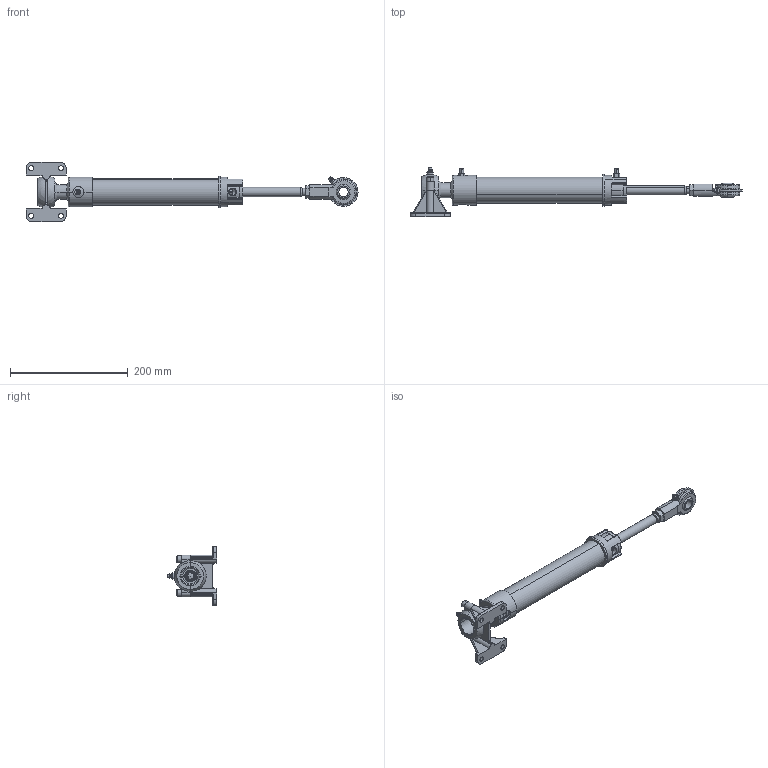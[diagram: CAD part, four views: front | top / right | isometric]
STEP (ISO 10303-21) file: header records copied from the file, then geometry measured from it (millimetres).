
FILE_DESCRIPTION (( 'STEP AP214' ), '1' );
FILE_NAME ('7040-U7.5.STEP', '2019-03-20T17:22:41', ( '' ), ( '' ), 'SwSTEP 2.0', 'SolidWorks 2017', '' );
FILE_SCHEMA (( 'AUTOMOTIVE_DESIGN' ));
Length unit declared in the file: inch
Products named in the file (1): 7040-U7.5
Bounding box: 563.87 x 83.84 x 100.33 mm (x, y, z)
Surface area: 119073.5 mm2 (no closed solid volume)
Topology: 0 solids, 18 shells, 425 faces, 1232 edges, 789 vertices
Faces by surface type: cylinder 153, plane 144, torus 64, cone 45, sphere 13, bspline 6
Entity records: 21210 total; most frequent: CARTESIAN_POINT 4777, DIRECTION 2339, ORIENTED_EDGE 2173, EDGE_CURVE 1204, AXIS2_PLACEMENT_3D 943, VERTEX_POINT 782, CIRCLE 523, EDGE_LOOP 468
